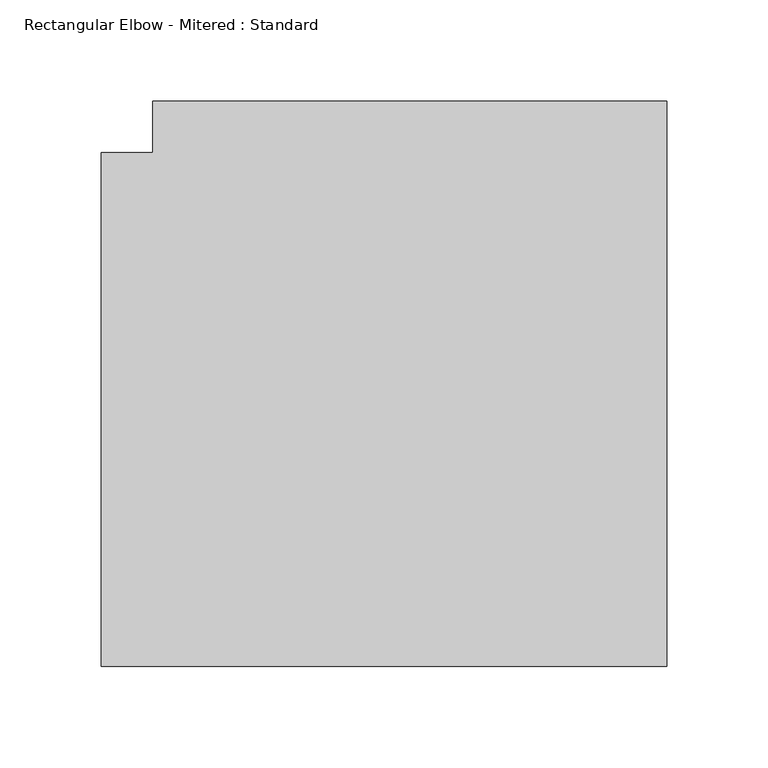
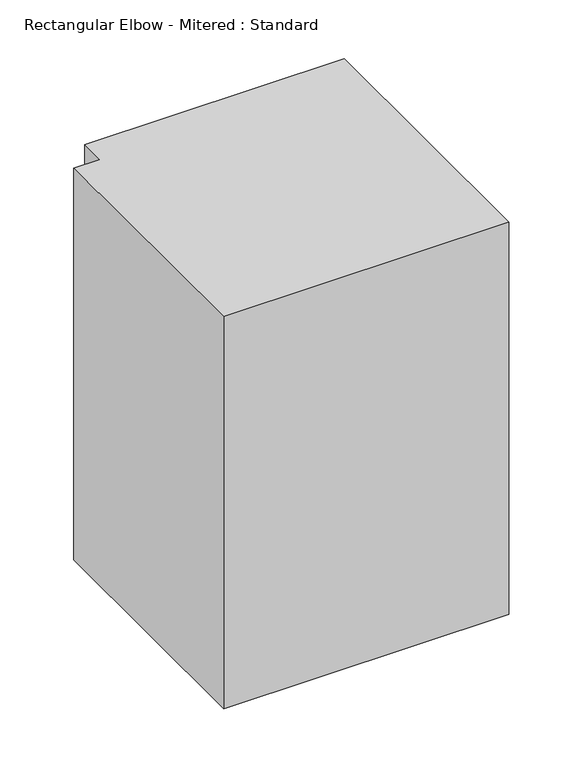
"""IFC4 building model written with IfcOpenShell, lengths in millimetres: duct fitting geometry, Rectangular Elbow - Mitered : Standard."""

from ifc_helpers import new_model, si_unit, frame, origin, place, context, project, spatial, polyline, outline, extrude, source, transform, mapped, element, save


def rectangular_elbow_mitered_standard_7de0f92e(model_context):
    return source(origin(), model_context, "Body", "SweptSolid", [
        extrude(outline(polyline([(-152.4, -127.0), (-152.4, 127.0), (-127.0, 127.0), (-127.0, 152.4), (127.0, 152.4), (127.0, -127.0), (-152.4, -127.0)])), frame((0.0, 0.0, -203.2), z_axis=(0.0, 0.0, 1.0), x_axis=(1.0, 0.0, 0.0)), (0.0, 0.0, 1.0), 406.4),
    ])


if __name__ == "__main__":
    model = new_model("IFC4")
    model_context = context("Model", 3, world=origin())
    ifc_project = project(units=[si_unit("LENGTHUNIT", "METRE", prefix="MILLI")], contexts=[model_context])
    site = spatial("IfcSite", under=ifc_project)
    building = spatial("IfcBuilding", under=site)
    placement = place(None, origin())
    rectangular_elbow_mitered_standard_shape = rectangular_elbow_mitered_standard_7de0f92e(model_context)
    element("IfcDuctFitting", 1, ObjectType="Rectangular Elbow - Mitered : Standard", at=placement, inside=building, context=model_context, shape_type="MappedRepresentation", body=[
        mapped(rectangular_elbow_mitered_standard_shape, transform((0.0, 0.0, 0.0), x_axis=(1.0, 0.0, 0.0), y_axis=(0.0, 1.0, 0.0), z_axis=(0.0, 0.0, 1.0))),
    ])
    save(model, "model.ifc")
